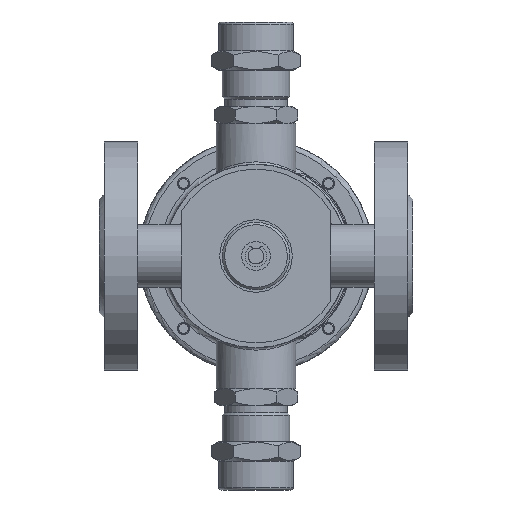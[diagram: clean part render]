
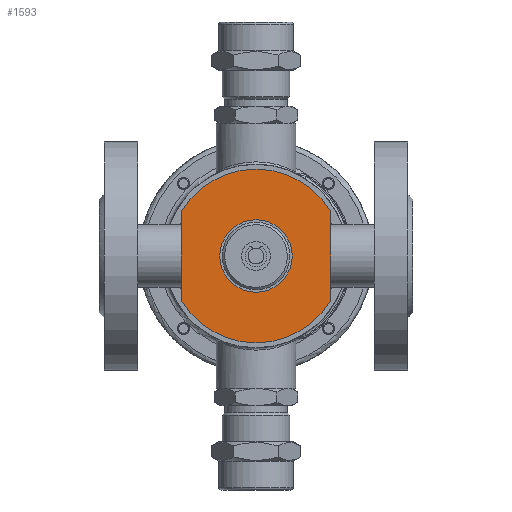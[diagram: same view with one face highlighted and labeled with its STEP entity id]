
A CAD part, front view. The second image highlights one B-rep face of the part: STEP entity #1593.
In plain terms, the highlighted planar face has unit normal (0, -1, 0).
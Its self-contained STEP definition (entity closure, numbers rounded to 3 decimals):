
#1593=ADVANCED_FACE('',(#18092,#18094),#18096,.T.);
#18092=FACE_BOUND('',#18093,.T.);
#18093=EDGE_LOOP('',(#28701));
#18094=FACE_OUTER_BOUND('',#18095,.T.);
#18095=EDGE_LOOP('',(#28702,#28703,#28704,#28705));
#18096=PLANE('',#18097);
#18097=AXIS2_PLACEMENT_3D('',#18098,#18099,#18100);
#18098=CARTESIAN_POINT('',(0.,-15.5,0.));
#18099=DIRECTION('',(0.,-1.,-0.));
#18100=DIRECTION('',(-1.,0.,0.));
#28701=ORIENTED_EDGE('',*,*,#37704,.F.);
#28702=ORIENTED_EDGE('',*,*,#37683,.T.);
#28703=ORIENTED_EDGE('',*,*,#37691,.T.);
#28704=ORIENTED_EDGE('',*,*,#37689,.T.);
#28705=ORIENTED_EDGE('',*,*,#37686,.T.);
#37683=EDGE_CURVE('',#44934,#44935,#44936,.F.);
#37686=EDGE_CURVE('',#44939,#44934,#44940,.T.);
#37689=EDGE_CURVE('',#44944,#44939,#44945,.F.);
#37691=EDGE_CURVE('',#44935,#44944,#44947,.T.);
#37704=EDGE_CURVE('',#44966,#44966,#44967,.T.);
#44934=VERTEX_POINT('',#69175);
#44935=VERTEX_POINT('',#69176);
#44936=LINE('',#69177,#69178);
#44939=VERTEX_POINT('',#69186);
#44940=CIRCLE('',#69187,36.);
#44944=VERTEX_POINT('',#69199);
#44945=LINE('',#69200,#69201);
#44947=CIRCLE('',#69206,36.);
#44966=VERTEX_POINT('',#69260);
#44967=CIRCLE('',#69261,15.);
#69175=CARTESIAN_POINT('',(-31.,-15.5,18.303));
#69176=CARTESIAN_POINT('',(-31.,-15.5,-18.303));
#69177=CARTESIAN_POINT('',(-31.,-15.5,-18.303));
#69178=VECTOR('',#69179,1.);
#69179=DIRECTION('',(0.,0.,1.));
#69186=CARTESIAN_POINT('',(31.,-15.5,18.303));
#69187=AXIS2_PLACEMENT_3D('',#69188,#69189,#69190);
#69188=CARTESIAN_POINT('',(0.,-15.5,0.));
#69189=DIRECTION('',(0.,-1.,-0.));
#69190=DIRECTION('',(0.861,0.,0.508));
#69199=CARTESIAN_POINT('',(31.,-15.5,-18.303));
#69200=CARTESIAN_POINT('',(31.,-15.5,18.303));
#69201=VECTOR('',#69202,1.);
#69202=DIRECTION('',(0.,0.,-1.));
#69206=AXIS2_PLACEMENT_3D('',#69207,#69208,#69209);
#69207=CARTESIAN_POINT('',(0.,-15.5,0.));
#69208=DIRECTION('',(0.,-1.,-0.));
#69209=DIRECTION('',(-0.861,0.,-0.508));
#69260=CARTESIAN_POINT('',(-15.,-15.5,0.));
#69261=AXIS2_PLACEMENT_3D('',#69262,#69263,#69264);
#69262=CARTESIAN_POINT('',(0.,-15.5,0.));
#69263=DIRECTION('',(0.,-1.,-0.));
#69264=DIRECTION('',(-1.,0.,0.));
